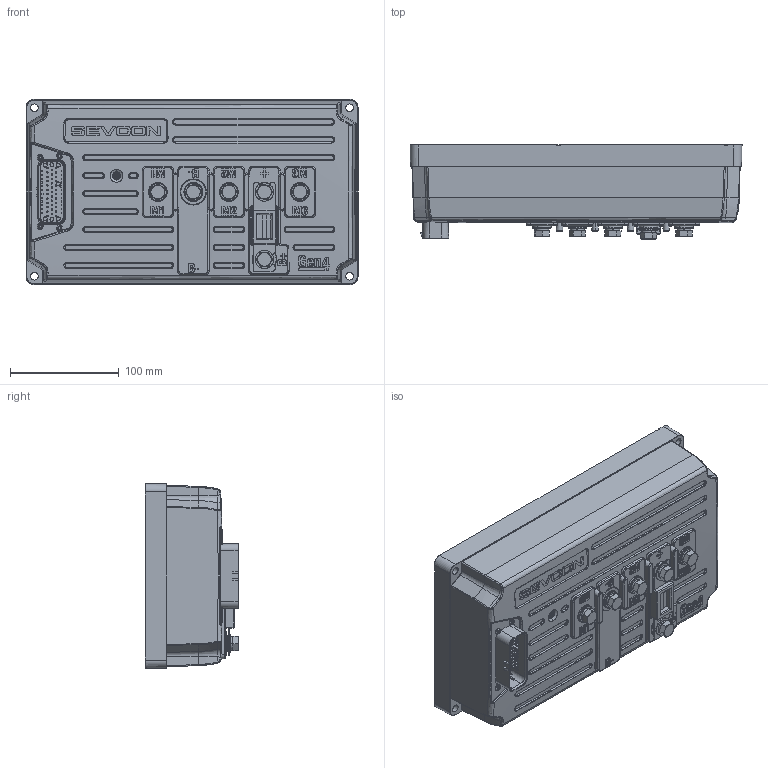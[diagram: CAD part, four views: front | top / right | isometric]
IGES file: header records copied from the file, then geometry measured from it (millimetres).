
Start section: SolidWorks IGES file using analytic representation for surfaces
Global section: file name: N:\UK\CAD\CAD Shared\Gen4\Gen4 models\CUSTOMER MODELS\Gen4 SIZE 6 CUSTOMER MODEL.IGS; native system: SolidWorks 2010; preprocessor: SolidWorks 2010; author: steve.jacobson; date: 130423.120825; units: millimetre
Bounding box: 305.45 x 86.33 x 170.45 mm (x, y, z)
Surface area: 191979.2 mm2 (no closed solid volume)
Topology: 0 solids, 0 shells, 1673 faces, 21124 edges, 21120 vertices
Faces by surface type: bspline 1105, revolution 568
